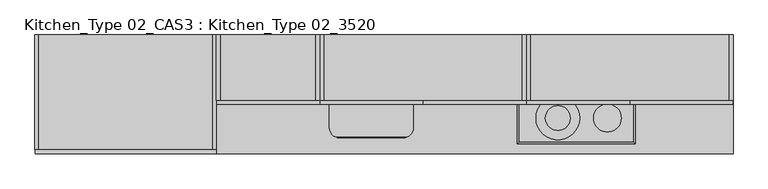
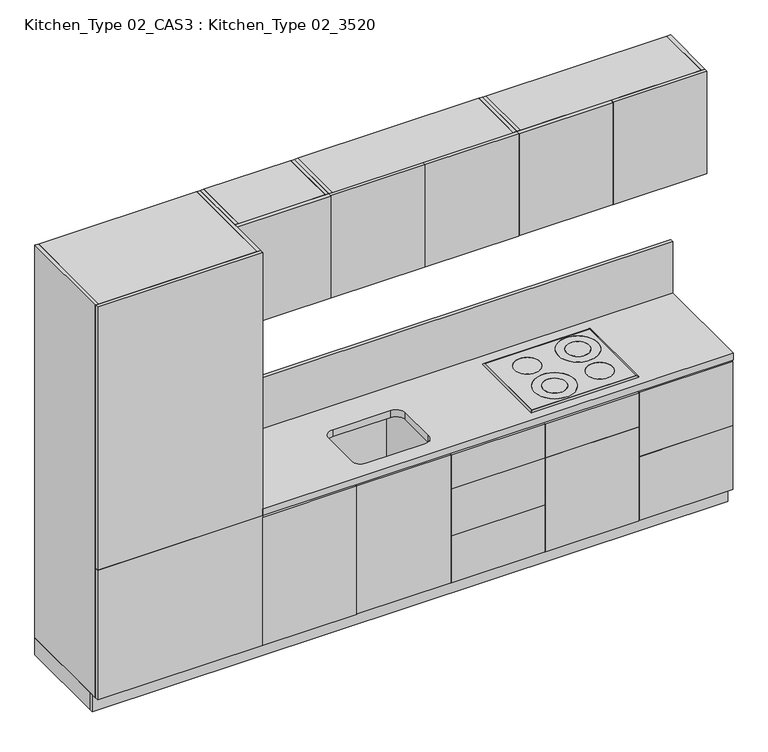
"""IFC4 building model written with IfcOpenShell, lengths in millimetres: furniture geometry, Kitchen_Type 02_CAS3 : Kitchen_Type 02_3520."""

from ifc_helpers import new_model, si_unit, point, frame, frame_2d, origin, origin_with_axes, place, context, project, spatial, polyline, circle_curve, ellipse_curve, trimmed, segment, composite_curve, outline, extrude, source, transform, mapped, element, save
from ifc_brep_helpers import plane_surface, cylinder_surface, advanced_brep


def kitchen_type_02_cas3_kitchen_type_02_3520_4ecc76ee(model_context):
    return source(origin(), model_context, "Body", "SolidModel", [
        advanced_brep(
        [(3018.8951127, 480.560876, 908.0), (3026.8951127, 488.560876, 900.0), (2430.8951127, 488.560876, 900.0), (2438.8951127, 480.560876, 908.0), (3018.8951127, 480.560876, 900.0), (2438.8951127, 480.560876, 900.0), (2430.8951127, 22.560876, 900.0), (2438.8951127, 30.560876, 908.0), (2438.8951127, 30.560876, 900.0), (3026.8951127, 22.560876, 900.0), (3018.8951127, 30.560876, 908.0), (3018.8951127, 30.560876, 900.0)],
        [
            (0, 1, ellipse_curve(frame((3018.8951127, 480.560876, 900.0), z_axis=(-0.707106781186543, 0.7071067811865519, 0.0), x_axis=(0.7071067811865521, 0.707106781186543, 0.0)), 11.3137085, 8.0)),
            (1, 2),
            (2, 3, ellipse_curve(frame((2438.8951127, 480.560876, 900.0), z_axis=(0.7071067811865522, 0.7071067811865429, 0.0), x_axis=(0.7071067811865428, -0.7071067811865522, 0.0)), 11.3137085, 8.0)),
            (3, 0),
            (4, 0),
            (3, 5),
            (5, 4),
            (2, 6),
            (6, 7, ellipse_curve(frame((2438.8951127, 30.560876, 900.0), z_axis=(-0.7071067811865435, 0.7071067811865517, 0.0), x_axis=(0.7071067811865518, 0.7071067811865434, 0.0)), 11.3137085, 8.0)),
            (7, 3),
            (7, 8),
            (8, 5),
            (6, 9),
            (9, 10, ellipse_curve(frame((3018.8951127, 30.560876, 900.0), z_axis=(-0.7071067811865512, -0.7071067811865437, 0.0), x_axis=(-0.7071067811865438, 0.7071067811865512, 0.0)), 11.3137085, 8.0)),
            (10, 7),
            (10, 11),
            (11, 8),
            (1, 9),
            (11, 4),
            (0, 10),
        ],
        [
            cylinder_surface(frame((3018.8951127, 480.560876, 900.0), z_axis=(1.0, 0.0, 0.0), x_axis=(0.0, 1.0, 0.0)), 8.0),
            plane_surface(frame((3018.8951127, 480.560876, 908.0), z_axis=(0.0, -1.0, 0.0), x_axis=(-1.0, 0.0, 0.0))),
            cylinder_surface(frame((2438.8951127, 480.560876, 900.0), z_axis=(0.0, 1.0, 0.0), x_axis=(-1.0, 0.0, 0.0)), 8.0),
            plane_surface(frame((2438.8951127, 480.560876, 908.0), z_axis=(1.0, 0.0, 0.0), x_axis=(0.0, -1.0, 0.0))),
            cylinder_surface(frame((2438.8951127, 30.560876, 900.0), z_axis=(-1.0, 0.0, 0.0), x_axis=(0.0, -1.0, 0.0)), 8.0),
            plane_surface(frame((2438.8951127, 30.560876, 908.0), z_axis=(0.0, 1.0, 0.0), x_axis=(1.0, 0.0, 0.0))),
            plane_surface(frame((3018.8951127, 30.560876, 900.0), z_axis=(0.0, 0.0, -1.0), x_axis=(0.0, 1.0, 0.0))),
            cylinder_surface(frame((3018.8951127, 30.560876, 900.0), z_axis=(0.0, -1.0, 0.0), x_axis=(1.0, 0.0, 0.0)), 8.0),
            plane_surface(frame((3018.8951127, 30.560876, 908.0), z_axis=(-1.0, 0.0, 0.0), x_axis=(0.0, 1.0, 0.0))),
        ],
        [
            (0, [[1, 2, 3, 4]]),
            (1, [[5, -4, 6, 7]]),
            (2, [[-3, 8, 9, 10]]),
            (3, [[-6, -10, 11, 12]]),
            (4, [[-9, 13, 14, 15]]),
            (5, [[-11, -15, 16, 17]]),
            (6, [[18, -13, -8, -2], [-12, -17, 19, -7]]),
            (7, [[-14, -18, -1, 20]]),
            (8, [[-16, -20, -5, -19]]),
        ],
    ),
        extrude(outline(polyline([(2438.8951127, 30.560876), (2438.8951127, 480.560876), (3018.8951127, 480.560876), (3018.8951127, 30.560876), (2438.8951127, 30.560876)]), holes=[composite_curve([segment(trimmed(circle_curve(frame_2d((2886.3951127, 153.060876)), 70.0), [point((2956.3951127, 153.060876))], [point((2816.3951127, 153.060876))], True, "CARTESIAN"), True, "CONTINUOUS"), segment(trimmed(circle_curve(frame_2d((2886.3951127, 153.060876)), 70.0), [point((2816.3951127, 153.060876))], [point((2956.3951127, 153.060876))], True, "CARTESIAN"), True, "CONTINUOUS")], self_intersect=False), composite_curve([segment(trimmed(circle_curve(frame_2d((2886.3951127, 363.060876)), 110.0), [point((2996.3951127, 363.060876))], [point((2776.3951127, 363.060876))], True, "CARTESIAN"), True, "CONTINUOUS"), segment(trimmed(circle_curve(frame_2d((2886.3951127, 363.060876)), 110.0), [point((2776.3951127, 363.060876))], [point((2996.3951127, 363.060876))], True, "CARTESIAN"), True, "CONTINUOUS")], self_intersect=False), composite_curve([segment(trimmed(circle_curve(frame_2d((2636.3951127, 153.060876)), 110.0), [point((2746.3951127, 153.060876))], [point((2526.3951127, 153.060876))], True, "CARTESIAN"), True, "CONTINUOUS"), segment(trimmed(circle_curve(frame_2d((2636.3951127, 153.060876)), 110.0), [point((2526.3951127, 153.060876))], [point((2746.3951127, 153.060876))], True, "CARTESIAN"), True, "CONTINUOUS")], self_intersect=False), composite_curve([segment(trimmed(circle_curve(frame_2d((2606.3951127, 363.060876)), 70.0), [point((2676.3951127, 363.060876))], [point((2536.3951127, 363.060876))], True, "CARTESIAN"), True, "CONTINUOUS"), segment(trimmed(circle_curve(frame_2d((2606.3951127, 363.060876)), 70.0), [point((2536.3951127, 363.060876))], [point((2676.3951127, 363.060876))], True, "CARTESIAN"), True, "CONTINUOUS")], self_intersect=False)]), frame((0.0, 0.0, 900.0), z_axis=(0.0, 0.0, 1.0), x_axis=(1.0, 0.0, 0.0)), (0.0, 0.0, 1.0), 8.0),
        extrude(outline(composite_curve([segment(trimmed(circle_curve(frame_2d((2886.3951127, 363.060876)), 62.5), [point((2948.8951127, 363.060876))], [point((2823.8951127, 363.060876))], False, "CARTESIAN"), True, "CONTINUOUS"), segment(trimmed(circle_curve(frame_2d((2886.3951127, 363.060876)), 62.5), [point((2823.8951127, 363.060876))], [point((2948.8951127, 363.060876))], False, "CARTESIAN"), True, "CONTINUOUS")], self_intersect=False)), frame((0.0, 0.0, 900.0), z_axis=(0.0, 0.0, 1.0), x_axis=(1.0, 0.0, 0.0)), (0.0, 0.0, 1.0), 8.0),
        extrude(outline(composite_curve([segment(trimmed(circle_curve(frame_2d((2636.3951127, 153.060876)), 62.5), [point((2698.8951127, 153.060876))], [point((2573.8951127, 153.060876))], False, "CARTESIAN"), True, "CONTINUOUS"), segment(trimmed(circle_curve(frame_2d((2636.3951127, 153.060876)), 62.5), [point((2573.8951127, 153.060876))], [point((2698.8951127, 153.060876))], False, "CARTESIAN"), True, "CONTINUOUS")], self_intersect=False)), frame((0.0, 0.0, 900.0), z_axis=(0.0, 0.0, 1.0), x_axis=(1.0, 0.0, 0.0)), (0.0, 0.0, 1.0), 8.0),
        extrude(outline(composite_curve([segment(trimmed(circle_curve(frame_2d((2886.3951127, 153.060876)), 70.0), [point((2816.3951127, 153.060876))], [point((2956.3951127, 153.060876))], False, "CARTESIAN"), True, "CONTINUOUS"), segment(trimmed(circle_curve(frame_2d((2886.3951127, 153.060876)), 70.0), [point((2956.3951127, 153.060876))], [point((2816.3951127, 153.060876))], False, "CARTESIAN"), True, "CONTINUOUS")], self_intersect=False)), frame((0.0, 0.0, 894.0), z_axis=(0.0, 0.0, 1.0), x_axis=(1.0, 0.0, 0.0)), (0.0, 0.0, 1.0), 14.0),
        extrude(outline(composite_curve([segment(trimmed(circle_curve(frame_2d((2886.3951127, 363.060876)), 110.0), [point((2776.3951127, 363.060876))], [point((2996.3951127, 363.060876))], False, "CARTESIAN"), True, "CONTINUOUS"), segment(trimmed(circle_curve(frame_2d((2886.3951127, 363.060876)), 110.0), [point((2996.3951127, 363.060876))], [point((2776.3951127, 363.060876))], False, "CARTESIAN"), True, "CONTINUOUS")], self_intersect=False), holes=[composite_curve([segment(trimmed(circle_curve(frame_2d((2886.3951127, 363.060876)), 62.5), [point((2823.8951127, 363.060876))], [point((2948.8951127, 363.060876))], True, "CARTESIAN"), True, "CONTINUOUS"), segment(trimmed(circle_curve(frame_2d((2886.3951127, 363.060876)), 62.5), [point((2948.8951127, 363.060876))], [point((2823.8951127, 363.060876))], True, "CARTESIAN"), True, "CONTINUOUS")], self_intersect=False)]), frame((0.0, 0.0, 894.0), z_axis=(0.0, 0.0, 1.0), x_axis=(1.0, 0.0, 0.0)), (0.0, 0.0, 1.0), 14.0),
        extrude(outline(composite_curve([segment(trimmed(circle_curve(frame_2d((2636.3951127, 153.060876)), 110.0), [point((2526.3951127, 153.060876))], [point((2746.3951127, 153.060876))], False, "CARTESIAN"), True, "CONTINUOUS"), segment(trimmed(circle_curve(frame_2d((2636.3951127, 153.060876)), 110.0), [point((2746.3951127, 153.060876))], [point((2526.3951127, 153.060876))], False, "CARTESIAN"), True, "CONTINUOUS")], self_intersect=False), holes=[composite_curve([segment(trimmed(circle_curve(frame_2d((2636.3951127, 153.060876)), 62.5), [point((2573.8951127, 153.060876))], [point((2698.8951127, 153.060876))], True, "CARTESIAN"), True, "CONTINUOUS"), segment(trimmed(circle_curve(frame_2d((2636.3951127, 153.060876)), 62.5), [point((2698.8951127, 153.060876))], [point((2573.8951127, 153.060876))], True, "CARTESIAN"), True, "CONTINUOUS")], self_intersect=False)]), frame((0.0, 0.0, 894.0), z_axis=(0.0, 0.0, 1.0), x_axis=(1.0, 0.0, 0.0)), (0.0, 0.0, 1.0), 14.0),
        extrude(outline(composite_curve([segment(trimmed(circle_curve(frame_2d((2606.3951127, 363.060876)), 70.0), [point((2536.3951127, 363.060876))], [point((2676.3951127, 363.060876))], False, "CARTESIAN"), True, "CONTINUOUS"), segment(trimmed(circle_curve(frame_2d((2606.3951127, 363.060876)), 70.0), [point((2676.3951127, 363.060876))], [point((2536.3951127, 363.060876))], False, "CARTESIAN"), True, "CONTINUOUS")], self_intersect=False)), frame((0.0, 0.0, 894.0), z_axis=(0.0, 0.0, 1.0), x_axis=(1.0, 0.0, 0.0)), (0.0, 0.0, 1.0), 14.0),
        extrude(outline(polyline([(1435.0, 221.960876), (916.0, 221.960876), (916.0, 241.960876), (1435.0, 241.960876), (1435.0, 221.960876)])), frame((0.0, 0.0, 1800.0), z_axis=(0.0, 0.0, 1.0), x_axis=(1.0, 0.0, 0.0)), (0.0, 0.0, 1.0), 599.0),
        extrude(outline(polyline([(1416.0, 571.960876), (1436.0, 571.960876), (1436.0, 241.960876), (1416.0, 241.960876), (1416.0, 571.960876)])), frame((0.0, 0.0, 1800.0), z_axis=(0.0, 0.0, 1.0), x_axis=(1.0, 0.0, 0.0)), (0.0, 0.0, 1.0), 600.0),
        extrude(outline(polyline([(915.0, 571.960876), (935.0, 571.960876), (935.0, 241.960876), (915.0, 241.960876), (915.0, 571.960876)])), frame((0.0, 0.0, 1800.0), z_axis=(0.0, 0.0, 1.0), x_axis=(1.0, 0.0, 0.0)), (0.0, 0.0, 1.0), 600.0),
        extrude(outline(polyline([(1416.0, 551.960876), (935.0, 551.960876), (935.0, 571.960876), (1416.0, 571.960876), (1416.0, 551.960876)])), frame((0.0, 0.0, 1800.0), z_axis=(0.0, 0.0, 1.0), x_axis=(1.0, 0.0, 0.0)), (0.0, 0.0, 1.0), 580.0),
        extrude(outline(polyline([(1416.0, 551.960876), (1416.0, 241.960876), (935.0, 241.960876), (935.0, 551.960876), (1416.0, 551.960876)])), frame((0.0, 0.0, 1800.0), z_axis=(0.0, 0.0, 1.0), x_axis=(1.0, 0.0, 0.0)), (0.0, 0.0, 1.0), 20.0),
        extrude(outline(polyline([(1416.0, 571.960876), (1416.0, 241.960876), (935.0, 241.960876), (935.0, 571.960876), (1416.0, 571.960876)])), frame((0.0, 0.0, 2380.0), z_axis=(0.0, 0.0, 1.0), x_axis=(1.0, 0.0, 0.0)), (0.0, 0.0, 1.0), 20.0),
        extrude(outline(polyline([(1437.0, 221.960876), (1437.0, 241.960876), (1956.0, 241.960876), (1956.0, 221.960876), (1437.0, 221.960876)])), frame((0.0, 0.0, 1800.0), z_axis=(0.0, 0.0, 1.0), x_axis=(1.0, 0.0, 0.0)), (0.0, 0.0, 1.0), 599.0),
        extrude(outline(polyline([(2477.0, 221.960876), (1958.0, 221.960876), (1958.0, 241.960876), (2477.0, 241.960876), (2477.0, 221.960876)])), frame((0.0, 0.0, 1800.0), z_axis=(0.0, 0.0, 1.0), x_axis=(1.0, 0.0, 0.0)), (0.0, 0.0, 1.0), 599.0),
        extrude(outline(polyline([(2458.0, 571.960876), (2478.0, 571.960876), (2478.0, 241.960876), (2458.0, 241.960876), (2458.0, 571.960876)])), frame((0.0, 0.0, 1800.0), z_axis=(0.0, 0.0, 1.0), x_axis=(1.0, 0.0, 0.0)), (0.0, 0.0, 1.0), 600.0),
        extrude(outline(polyline([(1436.0, 571.960876), (1456.0, 571.960876), (1456.0, 241.960876), (1436.0, 241.960876), (1436.0, 571.960876)])), frame((0.0, 0.0, 1800.0), z_axis=(0.0, 0.0, 1.0), x_axis=(1.0, 0.0, 0.0)), (0.0, 0.0, 1.0), 600.0),
        extrude(outline(polyline([(2458.0, 551.960876), (1456.0, 551.960876), (1456.0, 571.960876), (2458.0, 571.960876), (2458.0, 551.960876)])), frame((0.0, 0.0, 1800.0), z_axis=(0.0, 0.0, 1.0), x_axis=(1.0, 0.0, 0.0)), (0.0, 0.0, 1.0), 580.0),
        extrude(outline(polyline([(2458.0, 551.960876), (2458.0, 241.960876), (1456.0, 241.960876), (1456.0, 551.960876), (2458.0, 551.960876)])), frame((0.0, 0.0, 1800.0), z_axis=(0.0, 0.0, 1.0), x_axis=(1.0, 0.0, 0.0)), (0.0, 0.0, 1.0), 20.0),
        extrude(outline(polyline([(2458.0, 571.960876), (2458.0, 241.960876), (1456.0, 241.960876), (1456.0, 571.960876), (2458.0, 571.960876)])), frame((0.0, 0.0, 2380.0), z_axis=(0.0, 0.0, 1.0), x_axis=(1.0, 0.0, 0.0)), (0.0, 0.0, 1.0), 20.0),
        extrude(outline(polyline([(2508.0, 551.960876), (2969.0, 551.960876), (2969.0, -8.039124), (2508.0, -8.039124), (2508.0, 551.960876)])), frame((0.0, 0.0, 390.0), z_axis=(0.0, 0.0, 1.0), x_axis=(1.0, 0.0, 0.0)), (0.0, 0.0, 1.0), 20.0),
        extrude(outline(polyline([(2479.0, -28.039124), (2479.0, -8.039124), (2998.0, -8.039124), (2998.0, -28.039124), (2479.0, -28.039124)])), frame((0.0, 0.0, 100.0), z_axis=(0.0, 0.0, 1.0), x_axis=(1.0, 0.0, 0.0)), (0.0, 0.0, 1.0), 550.0),
        extrude(outline(polyline([(2479.0, -28.039124), (2479.0, -8.039124), (2998.0, -8.039124), (2998.0, -28.039124), (2479.0, -28.039124)])), frame((0.0, 0.0, 650.0), z_axis=(0.0, 0.0, 1.0), x_axis=(1.0, 0.0, 0.0)), (0.0, 0.0, 1.0), 200.0),
        extrude(outline(polyline([(2999.0, 41.960876), (2478.0, 41.960876), (2478.0, 571.960876), (2498.0, 571.960876), (2498.0, 61.960876), (2979.0, 61.960876), (2979.0, 571.960876), (2999.0, 571.960876), (2999.0, 41.960876)])), origin_with_axes(), (0.0, 0.0, 1.0), 100.0),
        extrude(outline(polyline([(2498.0, 571.960876), (2498.0, -8.039124), (2478.0, -8.039124), (2478.0, 571.960876), (2498.0, 571.960876)])), frame((0.0, 0.0, 100.0), z_axis=(0.0, 0.0, 1.0), x_axis=(1.0, 0.0, 0.0)), (0.0, 0.0, 1.0), 760.0),
        extrude(outline(polyline([(2999.0, 571.960876), (2999.0, -8.039124), (2979.0, -8.039124), (2979.0, 571.960876), (2999.0, 571.960876)])), frame((0.0, 0.0, 100.0), z_axis=(0.0, 0.0, 1.0), x_axis=(1.0, 0.0, 0.0)), (0.0, 0.0, 1.0), 760.0),
        extrude(outline(polyline([(2498.0, 551.960876), (2498.0, 571.960876), (2979.0, 571.960876), (2979.0, 551.960876), (2498.0, 551.960876)])), frame((0.0, 0.0, 100.0), z_axis=(0.0, 0.0, 1.0), x_axis=(1.0, 0.0, 0.0)), (0.0, 0.0, 1.0), 740.0),
        extrude(outline(polyline([(2498.0, 551.960876), (2979.0, 551.960876), (2979.0, -8.039124), (2498.0, -8.039124), (2498.0, 551.960876)])), frame((0.0, 0.0, 100.0), z_axis=(0.0, 0.0, 1.0), x_axis=(1.0, 0.0, 0.0)), (0.0, 0.0, 1.0), 20.0),
        extrude(outline(polyline([(2498.0, 571.960876), (2979.0, 571.960876), (2979.0, 506.960876), (2498.0, 506.960876), (2498.0, 571.960876)])), frame((0.0, 0.0, 840.0), z_axis=(0.0, 0.0, 1.0), x_axis=(1.0, 0.0, 0.0)), (0.0, 0.0, 1.0), 20.0),
        extrude(outline(polyline([(2979.0, 56.960876), (2979.0, -8.039124), (2498.0, -8.039124), (2498.0, 56.960876), (2979.0, 56.960876)])), frame((0.0, 0.0, 840.0), z_axis=(0.0, 0.0, 1.0), x_axis=(1.0, 0.0, 0.0)), (0.0, 0.0, 1.0), 20.0),
        extrude(outline(polyline([(2479.0, 221.960876), (2479.0, 241.960876), (2998.0, 241.960876), (2998.0, 221.960876), (2479.0, 221.960876)])), frame((0.0, 0.0, 1800.0), z_axis=(0.0, 0.0, 1.0), x_axis=(1.0, 0.0, 0.0)), (0.0, 0.0, 1.0), 599.0),
        extrude(outline(polyline([(3519.0, 221.960876), (3000.0, 221.960876), (3000.0, 241.960876), (3519.0, 241.960876), (3519.0, 221.960876)])), frame((0.0, 0.0, 1800.0), z_axis=(0.0, 0.0, 1.0), x_axis=(1.0, 0.0, 0.0)), (0.0, 0.0, 1.0), 599.0),
        extrude(outline(polyline([(3500.0, 571.960876), (3520.0, 571.960876), (3520.0, 241.960876), (3500.0, 241.960876), (3500.0, 571.960876)])), frame((0.0, 0.0, 1800.0), z_axis=(0.0, 0.0, 1.0), x_axis=(1.0, 0.0, 0.0)), (0.0, 0.0, 1.0), 600.0),
        extrude(outline(polyline([(2478.0, 571.960876), (2498.0, 571.960876), (2498.0, 241.960876), (2478.0, 241.960876), (2478.0, 571.960876)])), frame((0.0, 0.0, 1800.0), z_axis=(0.0, 0.0, 1.0), x_axis=(1.0, 0.0, 0.0)), (0.0, 0.0, 1.0), 600.0),
        extrude(outline(polyline([(3500.0, 551.960876), (2498.0, 551.960876), (2498.0, 571.960876), (3500.0, 571.960876), (3500.0, 551.960876)])), frame((0.0, 0.0, 1800.0), z_axis=(0.0, 0.0, 1.0), x_axis=(1.0, 0.0, 0.0)), (0.0, 0.0, 1.0), 580.0),
        extrude(outline(polyline([(3500.0, 551.960876), (3500.0, 241.960876), (2498.0, 241.960876), (2498.0, 551.960876), (3500.0, 551.960876)])), frame((0.0, 0.0, 1800.0), z_axis=(0.0, 0.0, 1.0), x_axis=(1.0, 0.0, 0.0)), (0.0, 0.0, 1.0), 20.0),
        extrude(outline(polyline([(3500.0, 571.960876), (3500.0, 241.960876), (2498.0, 241.960876), (2498.0, 571.960876), (3500.0, 571.960876)])), frame((0.0, 0.0, 2380.0), z_axis=(0.0, 0.0, 1.0), x_axis=(1.0, 0.0, 0.0)), (0.0, 0.0, 1.0), 20.0),
        extrude(outline(polyline([(3520.0, 551.960876), (915.0, 551.960876), (915.0, 571.960876), (3520.0, 571.960876), (3520.0, 551.960876)])), frame((0.0, 0.0, 900.0), z_axis=(0.0, 0.0, 1.0), x_axis=(1.0, 0.0, 0.0)), (0.0, 0.0, 1.0), 300.0),
        extrude(outline(polyline([(3520.0, 21.960876), (0.0, 21.960876), (0.0, 41.960876), (3520.0, 41.960876), (3520.0, 21.960876)])), origin_with_axes(), (0.0, 0.0, 1.0), 100.0),
        extrude(outline(polyline([(3520.0, 571.960876), (3520.0, -28.039124), (915.0, -28.039124), (915.0, 571.960876), (3520.0, 571.960876)]), holes=[composite_curve([segment(trimmed(circle_curve(frame_2d((1535.4, 325.1014576)), 50.8), [point((1535.4, 375.9014576))], [point((1484.6, 325.1014576))], True, "CARTESIAN"), True, "CONTINUOUS"), segment(polyline([(1484.6, 325.1014576), (1484.6, 104.7303748)]), True, "CONTINUOUS"), segment(trimmed(circle_curve(frame_2d((1535.4, 104.7303748)), 50.8), [point((1484.6, 104.7303748))], [point((1535.4, 53.9303748))], True, "CARTESIAN"), True, "CONTINUOUS"), segment(polyline([(1535.4, 53.9303748), (1857.6, 53.9303748)]), True, "CONTINUOUS"), segment(trimmed(circle_curve(frame_2d((1857.6, 104.7303748)), 50.8), [point((1857.6, 53.9303748))], [point((1908.4, 104.7303748))], True, "CARTESIAN"), True, "CONTINUOUS"), segment(polyline([(1908.4, 104.7303748), (1908.4, 325.1014576)]), True, "CONTINUOUS"), segment(trimmed(circle_curve(frame_2d((1857.6, 325.1014576)), 50.8), [point((1908.4, 325.1014576))], [point((1857.6, 375.9014576))], True, "CARTESIAN"), True, "CONTINUOUS"), segment(polyline([(1857.6, 375.9014576), (1535.4, 375.9014576)]), True, "CONTINUOUS")], self_intersect=False)]), frame((0.0, 0.0, 860.0), z_axis=(0.0, 0.0, 1.0), x_axis=(1.0, 0.0, 0.0)), (0.0, 0.0, 1.0), 40.0),
        extrude(outline(polyline([(1956.0, -28.039124), (1437.0, -28.039124), (1437.0, -8.039124), (1956.0, -8.039124), (1956.0, -28.039124)])), frame((0.0, 0.0, 100.0), z_axis=(0.0, 0.0, 1.0), x_axis=(1.0, 0.0, 0.0)), (0.0, 0.0, 1.0), 750.0),
        extrude(outline(polyline([(1436.0, 41.960876), (1436.0, 571.960876), (1456.0, 571.960876), (1456.0, 61.960876), (1937.0, 61.960876), (1937.0, 571.960876), (1957.0, 571.960876), (1957.0, 41.960876), (1436.0, 41.960876)])), origin_with_axes(), (0.0, 0.0, 1.0), 100.0),
        extrude(outline(polyline([(1937.0, 571.960876), (1957.0, 571.960876), (1957.0, -8.039124), (1937.0, -8.039124), (1937.0, 571.960876)])), frame((0.0, 0.0, 100.0), z_axis=(0.0, 0.0, 1.0), x_axis=(1.0, 0.0, 0.0)), (0.0, 0.0, 1.0), 760.0),
        extrude(outline(polyline([(1436.0, 571.960876), (1456.0, 571.960876), (1456.0, -8.039124), (1436.0, -8.039124), (1436.0, 571.960876)])), frame((0.0, 0.0, 100.0), z_axis=(0.0, 0.0, 1.0), x_axis=(1.0, 0.0, 0.0)), (0.0, 0.0, 1.0), 760.0),
        extrude(outline(polyline([(1937.0, 551.960876), (1456.0, 551.960876), (1456.0, 571.960876), (1937.0, 571.960876), (1937.0, 551.960876)])), frame((0.0, 0.0, 100.0), z_axis=(0.0, 0.0, 1.0), x_axis=(1.0, 0.0, 0.0)), (0.0, 0.0, 1.0), 740.0),
        extrude(outline(polyline([(1937.0, 551.960876), (1937.0, -8.039124), (1456.0, -8.039124), (1456.0, 551.960876), (1937.0, 551.960876)])), frame((0.0, 0.0, 100.0), z_axis=(0.0, 0.0, 1.0), x_axis=(1.0, 0.0, 0.0)), (0.0, 0.0, 1.0), 20.0),
        extrude(outline(polyline([(1937.0, 571.960876), (1937.0, 506.960876), (1456.0, 506.960876), (1456.0, 571.960876), (1937.0, 571.960876)])), frame((0.0, 0.0, 840.0), z_axis=(0.0, 0.0, 1.0), x_axis=(1.0, 0.0, 0.0)), (0.0, 0.0, 1.0), 20.0),
        extrude(outline(polyline([(1456.0, 56.960876), (1937.0, 56.960876), (1937.0, -8.039124), (1456.0, -8.039124), (1456.0, 56.960876)])), frame((0.0, 0.0, 840.0), z_axis=(0.0, 0.0, 1.0), x_axis=(1.0, 0.0, 0.0)), (0.0, 0.0, 1.0), 20.0),
        extrude(outline(polyline([(1435.0, -28.039124), (916.0, -28.039124), (916.0, -8.039124), (1435.0, -8.039124), (1435.0, -28.039124)])), frame((0.0, 0.0, 100.0), z_axis=(0.0, 0.0, 1.0), x_axis=(1.0, 0.0, 0.0)), (0.0, 0.0, 1.0), 750.0),
        extrude(outline(polyline([(915.0, 41.960876), (915.0, 571.960876), (935.0, 571.960876), (935.0, 61.960876), (1416.0, 61.960876), (1416.0, 571.960876), (1436.0, 571.960876), (1436.0, 41.960876), (915.0, 41.960876)])), origin_with_axes(), (0.0, 0.0, 1.0), 100.0),
        extrude(outline(polyline([(1416.0, 551.960876), (1416.0, -8.039124), (935.0, -8.039124), (935.0, 551.960876), (1416.0, 551.960876)])), frame((0.0, 0.0, 100.0), z_axis=(0.0, 0.0, 1.0), x_axis=(1.0, 0.0, 0.0)), (0.0, 0.0, 1.0), 20.0),
        extrude(outline(polyline([(1416.0, 571.960876), (1416.0, 506.960876), (935.0, 506.960876), (935.0, 571.960876), (1416.0, 571.960876)])), frame((0.0, 0.0, 840.0), z_axis=(0.0, 0.0, 1.0), x_axis=(1.0, 0.0, 0.0)), (0.0, 0.0, 1.0), 20.0),
        extrude(outline(polyline([(935.0, 56.960876), (1416.0, 56.960876), (1416.0, -8.039124), (935.0, -8.039124), (935.0, 56.960876)])), frame((0.0, 0.0, 840.0), z_axis=(0.0, 0.0, 1.0), x_axis=(1.0, 0.0, 0.0)), (0.0, 0.0, 1.0), 20.0),
        extrude(outline(polyline([(1416.0, 571.960876), (1436.0, 571.960876), (1436.0, -8.039124), (1416.0, -8.039124), (1416.0, 571.960876)])), frame((0.0, 0.0, 100.0), z_axis=(0.0, 0.0, 1.0), x_axis=(1.0, 0.0, 0.0)), (0.0, 0.0, 1.0), 760.0),
        extrude(outline(polyline([(915.0, 571.960876), (935.0, 571.960876), (935.0, -8.039124), (915.0, -8.039124), (915.0, 571.960876)])), frame((0.0, 0.0, 100.0), z_axis=(0.0, 0.0, 1.0), x_axis=(1.0, 0.0, 0.0)), (0.0, 0.0, 1.0), 760.0),
        extrude(outline(polyline([(1416.0, 551.960876), (935.0, 551.960876), (935.0, 571.960876), (1416.0, 571.960876), (1416.0, 551.960876)])), frame((0.0, 0.0, 100.0), z_axis=(0.0, 0.0, 1.0), x_axis=(1.0, 0.0, 0.0)), (0.0, 0.0, 1.0), 740.0),
        extrude(outline(polyline([(30.0, 551.960876), (885.0, 551.960876), (885.0, -8.039124), (30.0, -8.039124), (30.0, 551.960876)])), frame((0.0, 0.0, 1990.0), z_axis=(0.0, 0.0, 1.0), x_axis=(1.0, 0.0, 0.0)), (0.0, 0.0, 1.0), 20.0),
        extrude(outline(polyline([(30.0, 551.960876), (885.0, 551.960876), (885.0, -8.039124), (30.0, -8.039124), (30.0, 551.960876)])), frame((0.0, 0.0, 1690.0), z_axis=(0.0, 0.0, 1.0), x_axis=(1.0, 0.0, 0.0)), (0.0, 0.0, 1.0), 20.0),
        extrude(outline(polyline([(30.0, 551.960876), (885.0, 551.960876), (885.0, -8.039124), (30.0, -8.039124), (30.0, 551.960876)])), frame((0.0, 0.0, 1390.0), z_axis=(0.0, 0.0, 1.0), x_axis=(1.0, 0.0, 0.0)), (0.0, 0.0, 1.0), 20.0),
        extrude(outline(polyline([(30.0, 551.960876), (885.0, 551.960876), (885.0, -8.039124), (30.0, -8.039124), (30.0, 551.960876)])), frame((0.0, 0.0, 1090.0), z_axis=(0.0, 0.0, 1.0), x_axis=(1.0, 0.0, 0.0)), (0.0, 0.0, 1.0), 20.0),
        extrude(outline(polyline([(20.0, 551.960876), (895.0, 551.960876), (895.0, -8.039124), (20.0, -8.039124), (20.0, 551.960876)])), frame((0.0, 0.0, 790.0), z_axis=(0.0, 0.0, 1.0), x_axis=(1.0, 0.0, 0.0)), (0.0, 0.0, 1.0), 20.0),
        extrude(outline(polyline([(1.0, -28.039124), (1.0, -8.039124), (914.0, -8.039124), (914.0, -28.039124), (1.0, -28.039124)])), frame((0.0, 0.0, 860.0), z_axis=(0.0, 0.0, 1.0), x_axis=(1.0, 0.0, 0.0)), (0.0, 0.0, 1.0), 1540.0),
        extrude(outline(polyline([(1.0, -28.039124), (1.0, -8.039124), (914.0, -8.039124), (914.0, -28.039124), (1.0, -28.039124)])), frame((0.0, 0.0, 100.0), z_axis=(0.0, 0.0, 1.0), x_axis=(1.0, 0.0, 0.0)), (0.0, 0.0, 1.0), 760.0),
        extrude(outline(polyline([(915.0, 41.960876), (0.0, 41.960876), (0.0, 571.960876), (20.0, 571.960876), (20.0, 61.960876), (895.0, 61.960876), (895.0, 571.960876), (915.0, 571.960876), (915.0, 41.960876)])), origin_with_axes(), (0.0, 0.0, 1.0), 100.0),
        extrude(outline(polyline([(20.0, 551.960876), (895.0, 551.960876), (895.0, -8.039124), (20.0, -8.039124), (20.0, 551.960876)])), frame((0.0, 0.0, 100.0), z_axis=(0.0, 0.0, 1.0), x_axis=(1.0, 0.0, 0.0)), (0.0, 0.0, 1.0), 20.0),
        extrude(outline(polyline([(20.0, 571.960876), (895.0, 571.960876), (895.0, -8.039124), (20.0, -8.039124), (20.0, 571.960876)])), frame((0.0, 0.0, 2380.0), z_axis=(0.0, 0.0, 1.0), x_axis=(1.0, 0.0, 0.0)), (0.0, 0.0, 1.0), 20.0),
        extrude(outline(polyline([(20.0, 571.960876), (20.0, -8.039124), (0.0, -8.039124), (0.0, 571.960876), (20.0, 571.960876)])), frame((0.0, 0.0, 100.0), z_axis=(0.0, 0.0, 1.0), x_axis=(1.0, 0.0, 0.0)), (0.0, 0.0, 1.0), 2300.0),
        extrude(outline(polyline([(915.0, 571.960876), (915.0, -8.039124), (895.0, -8.039124), (895.0, 571.960876), (915.0, 571.960876)])), frame((0.0, 0.0, 100.0), z_axis=(0.0, 0.0, 1.0), x_axis=(1.0, 0.0, 0.0)), (0.0, 0.0, 1.0), 2300.0),
        extrude(outline(polyline([(20.0, 551.960876), (20.0, 571.960876), (895.0, 571.960876), (895.0, 551.960876), (20.0, 551.960876)])), frame((0.0, 0.0, 100.0), z_axis=(0.0, 0.0, 1.0), x_axis=(1.0, 0.0, 0.0)), (0.0, 0.0, 1.0), 2280.0),
        extrude(outline(polyline([(3519.0, -28.039124), (3000.0, -28.039124), (3000.0, -8.039124), (3519.0, -8.039124), (3519.0, -28.039124)])), frame((0.0, 0.0, 475.5), z_axis=(0.0, 0.0, 1.0), x_axis=(1.0, 0.0, 0.0)), (0.0, 0.0, 1.0), 374.5),
        extrude(outline(polyline([(3519.0, -28.039124), (3000.0, -28.039124), (3000.0, -8.039124), (3519.0, -8.039124), (3519.0, -28.039124)])), frame((0.0, 0.0, 100.0), z_axis=(0.0, 0.0, 1.0), x_axis=(1.0, 0.0, 0.0)), (0.0, 0.0, 1.0), 374.5),
        extrude(outline(polyline([(2999.0, 41.960876), (2999.0, 571.960876), (3019.0, 571.960876), (3019.0, 61.960876), (3500.0, 61.960876), (3500.0, 571.960876), (3520.0, 571.960876), (3520.0, 41.960876), (2999.0, 41.960876)])), origin_with_axes(), (0.0, 0.0, 1.0), 100.0),
        extrude(outline(polyline([(3500.0, 571.960876), (3520.0, 571.960876), (3520.0, -8.039124), (3500.0, -8.039124), (3500.0, 571.960876)])), frame((0.0, 0.0, 100.0), z_axis=(0.0, 0.0, 1.0), x_axis=(1.0, 0.0, 0.0)), (0.0, 0.0, 1.0), 760.0),
        extrude(outline(polyline([(2999.0, 571.960876), (3019.0, 571.960876), (3019.0, -8.039124), (2999.0, -8.039124), (2999.0, 571.960876)])), frame((0.0, 0.0, 100.0), z_axis=(0.0, 0.0, 1.0), x_axis=(1.0, 0.0, 0.0)), (0.0, 0.0, 1.0), 760.0),
        extrude(outline(polyline([(3500.0, 551.960876), (3019.0, 551.960876), (3019.0, 571.960876), (3500.0, 571.960876), (3500.0, 551.960876)])), frame((0.0, 0.0, 100.0), z_axis=(0.0, 0.0, 1.0), x_axis=(1.0, 0.0, 0.0)), (0.0, 0.0, 1.0), 740.0),
        extrude(outline(polyline([(3500.0, 551.960876), (3500.0, -8.039124), (3019.0, -8.039124), (3019.0, 551.960876), (3500.0, 551.960876)])), frame((0.0, 0.0, 100.0), z_axis=(0.0, 0.0, 1.0), x_axis=(1.0, 0.0, 0.0)), (0.0, 0.0, 1.0), 20.0),
        extrude(outline(polyline([(3500.0, 571.960876), (3500.0, 506.960876), (3019.0, 506.960876), (3019.0, 571.960876), (3500.0, 571.960876)])), frame((0.0, 0.0, 840.0), z_axis=(0.0, 0.0, 1.0), x_axis=(1.0, 0.0, 0.0)), (0.0, 0.0, 1.0), 20.0),
        extrude(outline(polyline([(3019.0, 56.960876), (3500.0, 56.960876), (3500.0, -8.039124), (3019.0, -8.039124), (3019.0, 56.960876)])), frame((0.0, 0.0, 840.0), z_axis=(0.0, 0.0, 1.0), x_axis=(1.0, 0.0, 0.0)), (0.0, 0.0, 1.0), 20.0),
        extrude(outline(polyline([(2477.0, -28.039124), (1958.0, -28.039124), (1958.0, -8.039124), (2477.0, -8.039124), (2477.0, -28.039124)])), frame((0.0, 0.0, 651.0), z_axis=(0.0, 0.0, 1.0), x_axis=(1.0, 0.0, 0.0)), (0.0, 0.0, 1.0), 199.0),
        extrude(outline(polyline([(2477.0, -28.039124), (1958.0, -28.039124), (1958.0, -8.039124), (2477.0, -8.039124), (2477.0, -28.039124)])), frame((0.0, 0.0, 375.5), z_axis=(0.0, 0.0, 1.0), x_axis=(1.0, 0.0, 0.0)), (0.0, 0.0, 1.0), 274.5),
        extrude(outline(polyline([(2477.0, -28.039124), (1958.0, -28.039124), (1958.0, -8.039124), (2477.0, -8.039124), (2477.0, -28.039124)])), frame((0.0, 0.0, 100.0), z_axis=(0.0, 0.0, 1.0), x_axis=(1.0, 0.0, 0.0)), (0.0, 0.0, 1.0), 274.5),
        extrude(outline(polyline([(1957.0, 41.960876), (1957.0, 571.960876), (1977.0, 571.960876), (1977.0, 61.960876), (2458.0, 61.960876), (2458.0, 571.960876), (2478.0, 571.960876), (2478.0, 41.960876), (1957.0, 41.960876)])), origin_with_axes(), (0.0, 0.0, 1.0), 100.0),
        extrude(outline(polyline([(2458.0, 571.960876), (2478.0, 571.960876), (2478.0, -8.039124), (2458.0, -8.039124), (2458.0, 571.960876)])), frame((0.0, 0.0, 100.0), z_axis=(0.0, 0.0, 1.0), x_axis=(1.0, 0.0, 0.0)), (0.0, 0.0, 1.0), 760.0),
        extrude(outline(polyline([(1957.0, 571.960876), (1977.0, 571.960876), (1977.0, -8.039124), (1957.0, -8.039124), (1957.0, 571.960876)])), frame((0.0, 0.0, 100.0), z_axis=(0.0, 0.0, 1.0), x_axis=(1.0, 0.0, 0.0)), (0.0, 0.0, 1.0), 760.0),
        extrude(outline(polyline([(2458.0, 551.960876), (1977.0, 551.960876), (1977.0, 571.960876), (2458.0, 571.960876), (2458.0, 551.960876)])), frame((0.0, 0.0, 100.0), z_axis=(0.0, 0.0, 1.0), x_axis=(1.0, 0.0, 0.0)), (0.0, 0.0, 1.0), 740.0),
        extrude(outline(polyline([(2458.0, 551.960876), (2458.0, -8.039124), (1977.0, -8.039124), (1977.0, 551.960876), (2458.0, 551.960876)])), frame((0.0, 0.0, 100.0), z_axis=(0.0, 0.0, 1.0), x_axis=(1.0, 0.0, 0.0)), (0.0, 0.0, 1.0), 20.0),
        extrude(outline(polyline([(2458.0, 571.960876), (2458.0, 506.960876), (1977.0, 506.960876), (1977.0, 571.960876), (2458.0, 571.960876)])), frame((0.0, 0.0, 840.0), z_axis=(0.0, 0.0, 1.0), x_axis=(1.0, 0.0, 0.0)), (0.0, 0.0, 1.0), 20.0),
        extrude(outline(polyline([(1977.0, 56.960876), (2458.0, 56.960876), (2458.0, -8.039124), (1977.0, -8.039124), (1977.0, 56.960876)])), frame((0.0, 0.0, 840.0), z_axis=(0.0, 0.0, 1.0), x_axis=(1.0, 0.0, 0.0)), (0.0, 0.0, 1.0), 20.0),
    ])


if __name__ == "__main__":
    model = new_model("IFC4")
    model_context = context("Model", 3, world=origin())
    ifc_project = project(units=[si_unit("LENGTHUNIT", "METRE", prefix="MILLI")], contexts=[model_context])
    site = spatial("IfcSite", under=ifc_project)
    building = spatial("IfcBuilding", under=site)
    placement = place(None, origin())
    kitchen_type_02_cas3_kitchen_type_02_3520_shape = kitchen_type_02_cas3_kitchen_type_02_3520_4ecc76ee(model_context)
    element("IfcFurniture", 1, ObjectType="Kitchen_Type 02_CAS3 : Kitchen_Type 02_3520", at=placement, inside=building, context=model_context, shape_type="MappedRepresentation", body=[
        mapped(kitchen_type_02_cas3_kitchen_type_02_3520_shape, transform((0.0, 0.0, 0.0), x_axis=(1.0, 0.0, 0.0), y_axis=(0.0, 1.0, 0.0), z_axis=(0.0, 0.0, 1.0))),
    ])
    save(model, "model.ifc")
